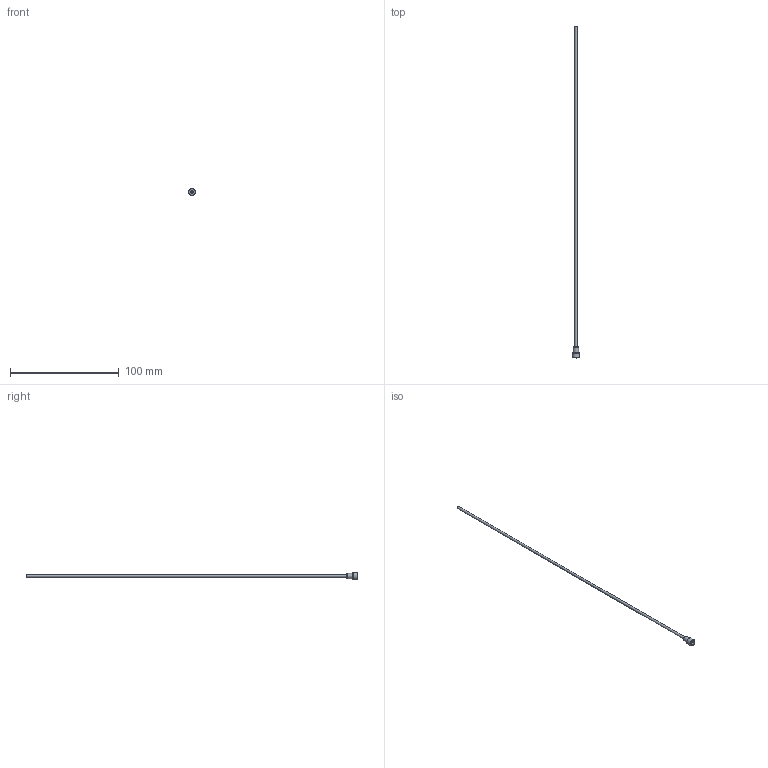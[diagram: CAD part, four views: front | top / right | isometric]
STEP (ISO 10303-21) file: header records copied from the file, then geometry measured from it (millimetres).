
FILE_DESCRIPTION(/* description */ (''),/* implementation_level */ '2;1');
FILE_NAME(/* name */ 'C:/Users/drich/Desktop/JR090T-12 v1.step',/* time_stamp */ '2019-12-30T13:00:46-06:00',/* author */ (''),/* organization */ (''),/* preprocessor_version */ 'ST-DEVELOPER v18',/* originating_system */ 'Autodesk Translation Framework v8.12.0.6',/* authorisation */ '');
FILE_SCHEMA (('AUTOMOTIVE_DESIGN { 1 0 10303 214 3 1 1 }'));
Length unit declared in the file: inch
Products named in the file (1): JR090T-12
Bounding box: 6.22 x 304.8 x 6.22 mm (x, y, z)
Volume: 536.6 mm3; surface area: 4202.2 mm2
Topology: 1 solids, 1 shells, 19 faces, 47 edges, 33 vertices
Faces by surface type: plane 11, cylinder 4, torus 3, cone 1
Full cylindrical faces by diameter (mm): 1.93 x1, 2.286 x1, 4.727 x1, 6.223 x1
Entity records: 624 total; most frequent: DIRECTION 111, CARTESIAN_POINT 100, ORIENTED_EDGE 94, EDGE_CURVE 47, AXIS2_PLACEMENT_3D 44, VERTEX_POINT 33, EDGE_LOOP 24, CIRCLE 24
